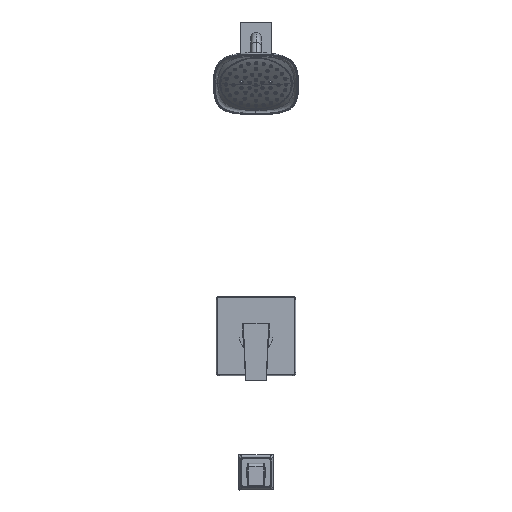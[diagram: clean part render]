
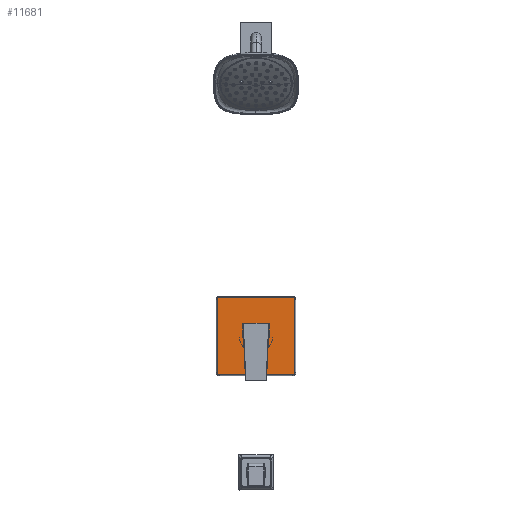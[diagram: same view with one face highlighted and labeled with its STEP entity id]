
A CAD part, top view. The second image highlights one B-rep face of the part: STEP entity #11681.
In plain terms, the highlighted planar face has unit normal (0, 0, 1).
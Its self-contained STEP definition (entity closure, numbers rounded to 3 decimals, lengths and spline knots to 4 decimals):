
#1497 = EDGE_LOOP ( 'NONE', ( #13202, #44163, #17367, #29605 ) ) ;
#1769 = CARTESIAN_POINT ( 'NONE',  ( 3.045, 2.875, 0.48 ) ) ;
#2413 = DIRECTION ( 'NONE',  ( 1., 0., 0. ) ) ;
#2684 = CARTESIAN_POINT ( 'NONE',  ( -3.045, -2.875, 0.48 ) ) ;
#3533 = DIRECTION ( 'NONE',  ( 0., 0., 1. ) ) ;
#7128 = VERTEX_POINT ( 'NONE', #10060 ) ;
#10060 = CARTESIAN_POINT ( 'NONE',  ( 0.125, -1.27, 0.48 ) ) ;
#11346 = ORIENTED_EDGE ( 'NONE', *, *, #85565, .T. ) ;
#11551 = VERTEX_POINT ( 'NONE', #37145 ) ;
#11681 = ADVANCED_FACE ( 'NONE', ( #113844, #51156 ), #13071, .T. ) ;
#13071 = PLANE ( 'NONE',  #109081 ) ;
#13202 = ORIENTED_EDGE ( 'NONE', *, *, #60666, .F. ) ;
#13570 = VECTOR ( 'NONE', #84804, 39.3701 ) ;
#14613 = EDGE_CURVE ( 'NONE', #52349, #34140, #112694, .T. ) ;
#15308 = AXIS2_PLACEMENT_3D ( 'NONE', #21764, #111422, #93258 ) ;
#17140 = DIRECTION ( 'NONE',  ( 0., 0., 1. ) ) ;
#17367 = ORIENTED_EDGE ( 'NONE', *, *, #77847, .F. ) ;
#18326 = EDGE_CURVE ( 'NONE', #48307, #66994, #38648, .T. ) ;
#21663 = DIRECTION ( 'NONE',  ( 0., 0., 1. ) ) ;
#21764 = CARTESIAN_POINT ( 'NONE',  ( 2.875, 2.875, 0.48 ) ) ;
#22494 = CIRCLE ( 'NONE', #33720, 0.17 ) ;
#22628 = CARTESIAN_POINT ( 'NONE',  ( 3.045, -2.875, 0.48 ) ) ;
#22999 = AXIS2_PLACEMENT_3D ( 'NONE', #28626, #83120, #75486 ) ;
#25795 = DIRECTION ( 'NONE',  ( 1., 0., 0. ) ) ;
#26367 = CARTESIAN_POINT ( 'NONE',  ( 3.045, -2.875, 0.48 ) ) ;
#26863 = DIRECTION ( 'NONE',  ( 0., -1., 0. ) ) ;
#28028 = LINE ( 'NONE', #73145, #52496 ) ;
#28626 = CARTESIAN_POINT ( 'NONE',  ( 0., -1.27, 0.48 ) ) ;
#29605 = ORIENTED_EDGE ( 'NONE', *, *, #106068, .F. ) ;
#30311 = CARTESIAN_POINT ( 'NONE',  ( -2.875, -3.045, 0.48 ) ) ;
#33720 = AXIS2_PLACEMENT_3D ( 'NONE', #83859, #3533, #25795 ) ;
#34140 = VERTEX_POINT ( 'NONE', #93976 ) ;
#35077 = LINE ( 'NONE', #35632, #77795 ) ;
#35632 = CARTESIAN_POINT ( 'NONE',  ( -0.125, -1.27, 0.48 ) ) ;
#36557 = ORIENTED_EDGE ( 'NONE', *, *, #50527, .T. ) ;
#37145 = CARTESIAN_POINT ( 'NONE',  ( -3.045, -2.875, 0.48 ) ) ;
#37594 = CARTESIAN_POINT ( 'NONE',  ( 2.875, -2.875, 0.48 ) ) ;
#38455 = DIRECTION ( 'NONE',  ( 0., -1., 0. ) ) ;
#38648 = CIRCLE ( 'NONE', #85512, 0.17 ) ;
#41334 = ORIENTED_EDGE ( 'NONE', *, *, #80412, .T. ) ;
#42773 = VERTEX_POINT ( 'NONE', #96490 ) ;
#43720 = CARTESIAN_POINT ( 'NONE',  ( 2.875, -3.045, 0.48 ) ) ;
#44163 = ORIENTED_EDGE ( 'NONE', *, *, #85038, .F. ) ;
#47427 = CARTESIAN_POINT ( 'NONE',  ( -0.125, -1.27, 0.48 ) ) ;
#48307 = VERTEX_POINT ( 'NONE', #43720 ) ;
#48832 = DIRECTION ( 'NONE',  ( 1., 0., 0. ) ) ;
#49145 = AXIS2_PLACEMENT_3D ( 'NONE', #105060, #17140, #86334 ) ;
#49607 = LINE ( 'NONE', #22628, #82526 ) ;
#50527 = EDGE_CURVE ( 'NONE', #34140, #42773, #28028, .T. ) ;
#51156 = FACE_OUTER_BOUND ( 'NONE', #75445, .T. ) ;
#51283 = EDGE_CURVE ( 'NONE', #69825, #48307, #74291, .T. ) ;
#52349 = VERTEX_POINT ( 'NONE', #1769 ) ;
#52496 = VECTOR ( 'NONE', #63776, 39.3701 ) ;
#52577 = VECTOR ( 'NONE', #111778, 39.3701 ) ;
#55701 = DIRECTION ( 'NONE',  ( 1., 0., 0. ) ) ;
#56416 = ORIENTED_EDGE ( 'NONE', *, *, #18326, .T. ) ;
#57524 = ORIENTED_EDGE ( 'NONE', *, *, #66251, .T. ) ;
#58390 = DIRECTION ( 'NONE',  ( 0., 1., 0. ) ) ;
#59019 = CARTESIAN_POINT ( 'NONE',  ( 0.125, -0.9535, 0.48 ) ) ;
#60666 = EDGE_CURVE ( 'NONE', #92984, #79858, #35077, .T. ) ;
#61879 = VERTEX_POINT ( 'NONE', #97485 ) ;
#63776 = DIRECTION ( 'NONE',  ( -1., 0., 0. ) ) ;
#66251 = EDGE_CURVE ( 'NONE', #97290, #11551, #83005, .T. ) ;
#66528 = ORIENTED_EDGE ( 'NONE', *, *, #14613, .T. ) ;
#66994 = VERTEX_POINT ( 'NONE', #26367 ) ;
#69825 = VERTEX_POINT ( 'NONE', #100742 ) ;
#73145 = CARTESIAN_POINT ( 'NONE',  ( -2.875, 3.045, 0.48 ) ) ;
#74291 = LINE ( 'NONE', #30311, #52577 ) ;
#74510 = DIRECTION ( 'NONE',  ( 0., 0., 1. ) ) ;
#74786 = CARTESIAN_POINT ( 'NONE',  ( -3.045, 2.875, 0.48 ) ) ;
#75445 = EDGE_LOOP ( 'NONE', ( #11346, #57524, #80263, #113170, #56416, #41334, #66528, #36557 ) ) ;
#75486 = DIRECTION ( 'NONE',  ( 1., 0., 0. ) ) ;
#77795 = VECTOR ( 'NONE', #26863, 39.3701 ) ;
#77847 = EDGE_CURVE ( 'NONE', #7128, #61879, #111163, .T. ) ;
#79858 = VERTEX_POINT ( 'NONE', #47427 ) ;
#80263 = ORIENTED_EDGE ( 'NONE', *, *, #96680, .T. ) ;
#80412 = EDGE_CURVE ( 'NONE', #66994, #52349, #49607, .T. ) ;
#82190 = VECTOR ( 'NONE', #38455, 39.3701 ) ;
#82526 = VECTOR ( 'NONE', #58390, 39.3701 ) ;
#83005 = LINE ( 'NONE', #2684, #82190 ) ;
#83120 = DIRECTION ( 'NONE',  ( 0., 0., 1. ) ) ;
#83859 = CARTESIAN_POINT ( 'NONE',  ( -2.875, -2.875, 0.48 ) ) ;
#84804 = DIRECTION ( 'NONE',  ( 0., 1., 0. ) ) ;
#85038 = EDGE_CURVE ( 'NONE', #61879, #92984, #112814, .T. ) ;
#85512 = AXIS2_PLACEMENT_3D ( 'NONE', #37594, #74510, #2413 ) ;
#85565 = EDGE_CURVE ( 'NONE', #42773, #97290, #95979, .T. ) ;
#86307 = CARTESIAN_POINT ( 'NONE',  ( -2.875, -2.875, 0.48 ) ) ;
#86334 = DIRECTION ( 'NONE',  ( 1., 0., 0. ) ) ;
#90383 = AXIS2_PLACEMENT_3D ( 'NONE', #101938, #21663, #55701 ) ;
#92984 = VERTEX_POINT ( 'NONE', #115281 ) ;
#93258 = DIRECTION ( 'NONE',  ( 1., 0., 0. ) ) ;
#93976 = CARTESIAN_POINT ( 'NONE',  ( 2.875, 3.045, 0.48 ) ) ;
#95979 = CIRCLE ( 'NONE', #49145, 0.17 ) ;
#96490 = CARTESIAN_POINT ( 'NONE',  ( -2.875, 3.045, 0.48 ) ) ;
#96680 = EDGE_CURVE ( 'NONE', #11551, #69825, #22494, .T. ) ;
#97290 = VERTEX_POINT ( 'NONE', #74786 ) ;
#97485 = CARTESIAN_POINT ( 'NONE',  ( 0.125, -1.0179, 0.48 ) ) ;
#100742 = CARTESIAN_POINT ( 'NONE',  ( -2.875, -3.045, 0.48 ) ) ;
#101938 = CARTESIAN_POINT ( 'NONE',  ( 0., 0., 0.48 ) ) ;
#105060 = CARTESIAN_POINT ( 'NONE',  ( -2.875, 2.875, 0.48 ) ) ;
#106068 = EDGE_CURVE ( 'NONE', #79858, #7128, #112864, .T. ) ;
#109081 = AXIS2_PLACEMENT_3D ( 'NONE', #86307, #112106, #48832 ) ;
#111163 = LINE ( 'NONE', #59019, #13570 ) ;
#111422 = DIRECTION ( 'NONE',  ( 0., 0., 1. ) ) ;
#111778 = DIRECTION ( 'NONE',  ( 1., 0., 0. ) ) ;
#112106 = DIRECTION ( 'NONE',  ( 0., 0., 1. ) ) ;
#112694 = CIRCLE ( 'NONE', #15308, 0.17 ) ;
#112814 = CIRCLE ( 'NONE', #90383, 1.0255 ) ;
#112864 = CIRCLE ( 'NONE', #22999, 0.125 ) ;
#113170 = ORIENTED_EDGE ( 'NONE', *, *, #51283, .T. ) ;
#113844 = FACE_BOUND ( 'NONE', #1497, .T. ) ;
#115281 = CARTESIAN_POINT ( 'NONE',  ( -0.125, -1.0179, 0.48 ) ) ;
